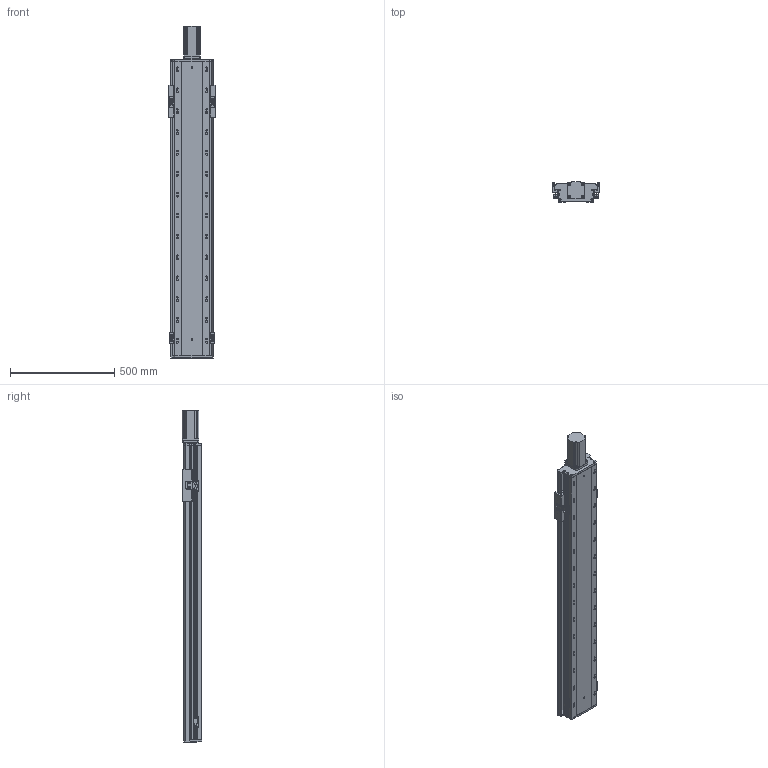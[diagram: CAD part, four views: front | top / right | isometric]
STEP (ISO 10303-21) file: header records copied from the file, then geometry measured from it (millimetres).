
FILE_DESCRIPTION (( 'STEP AP203' ), '1' );
FILE_NAME ('RY170FB-L2510-300-MK.SLDASM_1100.step', '2021-02-22T08:57:02', ( '盈信电脑' ), ( '东莞市道滘镇水果街19号' ), 'SwSTEP 2.0', 'SolidWorks 2012', '' );
FILE_SCHEMA (( 'CONFIG_CONTROL_DESIGN' ));
Length unit declared in the file: millimetre
Products named in the file (16): RY140-674嫖萇耀輸; RY140FB-覜茼え; RY140FB-674嫖萇覜茼え; RY170FB-L2510-300-MK.SLDASM_1100; RY140直线电机感应器674光电安装座; 覜茼ん674; 侂狟750W萇儂ㄗ80遺ㄘ; RY170FB-300奻裔_1100; RY170FB-铝滑块(25丝杆）; 750W萇儂梓袧蛌諉啣; RY170FB-綴裔啣; 滅袉蝶18-28; 滅袉蝶18-10; RY170FB-ヶ裔啣; RY170FB-300倰第菁釱-MK_1100
Assembly tree (20 placements, depth 3):
  RY170FB-L2510-300-MK.SLDASM_1100
    RY170FB-300倰第菁釱-MK_1100
    RY170FB-綴裔啣
    RY170FB-ヶ裔啣
    滅袉蝶18-28
    滅袉蝶18-10
    RY170FB-铝滑块(25丝杆）
    RY170FB-300奻裔_1100
    750W萇儂梓袧蛌諉啣
    侂狟750W萇儂ㄗ80遺ㄘ
    RY140-674嫖萇耀輸  x2
      覜茼ん674
      RY140直线电机感应器674光电安装座
    RY140FB-674嫖萇覜茼え
    RY140-674嫖萇耀輸  x2
      覜茼ん674
      RY140直线电机感应器674光电安装座
    RY140FB-覜茼え
Bounding box: 225 x 93.2 x 1589.5 mm (x, y, z)
Volume: 8314401 mm3; surface area: 2400932.8 mm2
Topology: 21 solids, 21 shells, 1767 faces, 5205 edges, 3336 vertices
Faces by surface type: cylinder 866, plane 761, cone 140
Entity records: 48333 total; most frequent: CARTESIAN_POINT 11262, ORIENTED_EDGE 7582, DIRECTION 7277, EDGE_CURVE 3791, AXIS2_PLACEMENT_3D 2667, VERTEX_POINT 2490, VECTOR 1943, LINE 1943
